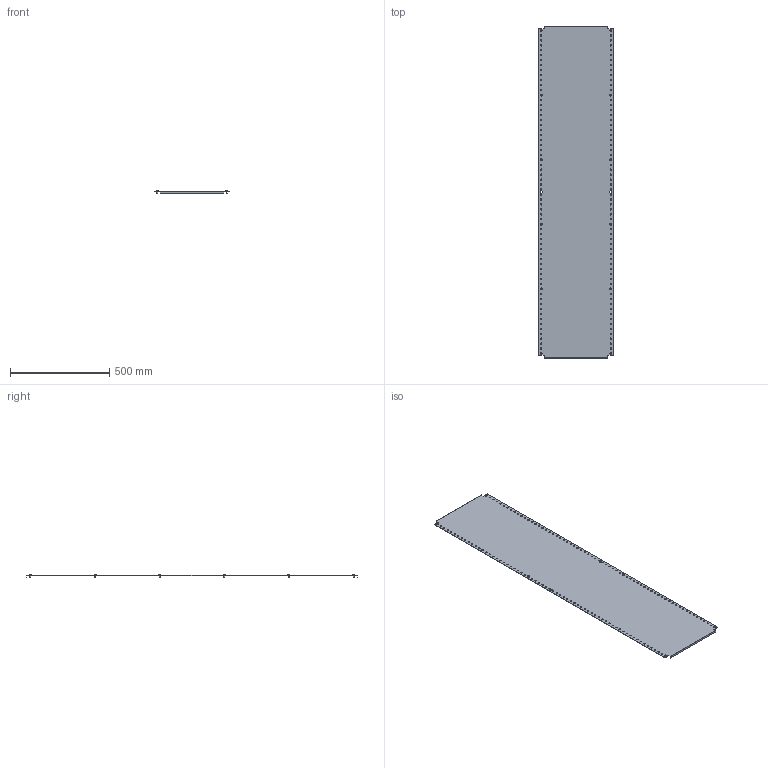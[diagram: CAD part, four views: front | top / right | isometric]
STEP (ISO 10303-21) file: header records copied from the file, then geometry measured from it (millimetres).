
FILE_DESCRIPTION (( 'STEP AP203' ), '1' );
FILE_NAME ('R6MP1845.STEP', '2025-03-28T12:10:40', ( '' ), ( '' ), 'SwSTEP 2.0', 'SolidWorks 2022', '' );
FILE_SCHEMA (( 'CONFIG_CONTROL_DESIGN' ));
Length unit declared in the file: millimetre
Products named in the file (3): RB.3293.00.00.0_-21; R6MP1845; M5x12 DIN 7500 C Torx Zinc_stright
Assembly tree (13 placements, depth 2):
  R6MP1845
    RB.3293.00.00.0_-21
    M5x12 DIN 7500 C Torx Zinc_stright  x12
Bounding box: 375 x 1670 x 15.56 mm (x, y, z)
Volume: 1130520.9 mm3; surface area: 1268004.3 mm2
Topology: 13 solids, 13 shells, 358 faces, 852 edges, 532 vertices
Faces by surface type: cylinder 160, plane 126, torus 24, cone 24, sphere 12, bspline 12
Full cylindrical faces by diameter (mm): 5 x12, 6.5 x132, 9.5 x12
Entity records: 6757 total; most frequent: CARTESIAN_POINT 1124, DIRECTION 1052, ORIENTED_EDGE 760, EDGE_LOOP 590, AXIS2_PLACEMENT_3D 482, EDGE_CURVE 380, VERTEX_POINT 342, FACE_OUTER_BOUND 320
